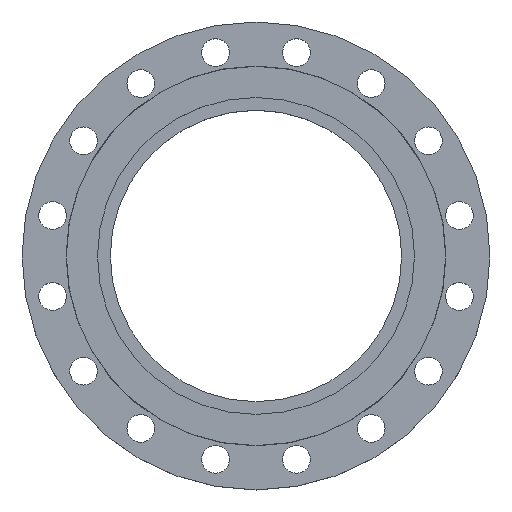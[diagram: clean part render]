
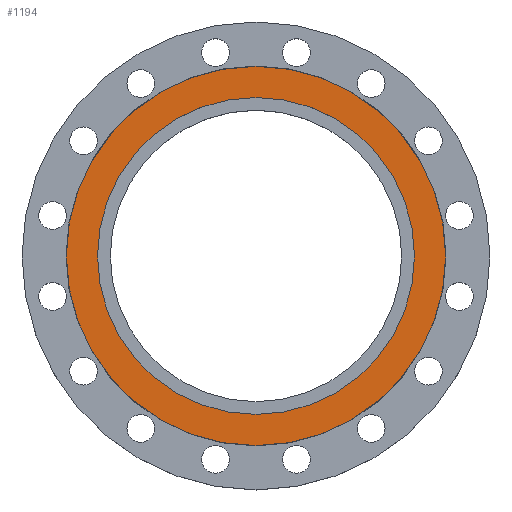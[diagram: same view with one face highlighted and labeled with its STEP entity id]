
A CAD part, top view. The second image highlights one B-rep face of the part: STEP entity #1194.
In plain terms, the highlighted planar face has unit normal (0, 0, 1).
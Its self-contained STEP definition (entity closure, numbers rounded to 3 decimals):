
#17 = DIRECTION ( 'NONE',  ( -1., 0., 0. ) ) ;
#20 = DIRECTION ( 'NONE',  ( 0., 0., -1. ) ) ;
#22 = CARTESIAN_POINT ( 'NONE',  ( 0., 0., 0. ) ) ;
#44 = CARTESIAN_POINT ( 'NONE',  ( 223.5, 0., 0. ) ) ;
#105 = EDGE_CURVE ( 'NONE', #524, #585, #973, .T. ) ;
#252 = DIRECTION ( 'NONE',  ( -1., 0., 0. ) ) ;
#253 = DIRECTION ( 'NONE',  ( 0., 0., -1. ) ) ;
#254 = CARTESIAN_POINT ( 'NONE',  ( 0., 0., 0. ) ) ;
#308 = EDGE_LOOP ( 'NONE', ( #867, #869 ) ) ;
#331 = DIRECTION ( 'NONE',  ( -1., 0., 0. ) ) ;
#357 = EDGE_LOOP ( 'NONE', ( #761, #775 ) ) ;
#524 = VERTEX_POINT ( 'NONE', #44 ) ;
#551 = EDGE_CURVE ( 'NONE', #1124, #1151, #1141, .T. ) ;
#585 = VERTEX_POINT ( 'NONE', #1515 ) ;
#627 = DIRECTION ( 'NONE',  ( 0., 0., -1. ) ) ;
#628 = CARTESIAN_POINT ( 'NONE',  ( 0., 0., 0. ) ) ;
#699 = CIRCLE ( 'NONE', #766, 223.5 ) ;
#761 = ORIENTED_EDGE ( 'NONE', *, *, #551, .F. ) ;
#765 = CARTESIAN_POINT ( 'NONE',  ( 267.5, 0., 0. ) ) ;
#766 = AXIS2_PLACEMENT_3D ( 'NONE', #1036, #1415, #331 ) ;
#770 = AXIS2_PLACEMENT_3D ( 'NONE', #628, #1133, #1494 ) ;
#775 = ORIENTED_EDGE ( 'NONE', *, *, #1441, .F. ) ;
#782 = FACE_OUTER_BOUND ( 'NONE', #357, .T. ) ;
#867 = ORIENTED_EDGE ( 'NONE', *, *, #923, .T. ) ;
#869 = ORIENTED_EDGE ( 'NONE', *, *, #105, .T. ) ;
#922 = AXIS2_PLACEMENT_3D ( 'NONE', #254, #253, #252 ) ;
#923 = EDGE_CURVE ( 'NONE', #585, #524, #699, .T. ) ;
#973 = CIRCLE ( 'NONE', #922, 223.5 ) ;
#1036 = CARTESIAN_POINT ( 'NONE',  ( 0., 0., 0. ) ) ;
#1103 = CARTESIAN_POINT ( 'NONE',  ( -267.5, 0., 0. ) ) ;
#1124 = VERTEX_POINT ( 'NONE', #1103 ) ;
#1129 = DIRECTION ( 'NONE',  ( -1., 0., 0. ) ) ;
#1130 = AXIS2_PLACEMENT_3D ( 'NONE', #22, #20, #17 ) ;
#1133 = DIRECTION ( 'NONE',  ( 0., 0., 1. ) ) ;
#1141 = CIRCLE ( 'NONE', #1130, 267.5 ) ;
#1151 = VERTEX_POINT ( 'NONE', #765 ) ;
#1194 = ADVANCED_FACE ( 'NONE', ( #782, #1269 ), #1540, .T. ) ;
#1269 = FACE_BOUND ( 'NONE', #308, .T. ) ;
#1293 = AXIS2_PLACEMENT_3D ( 'NONE', #1539, #627, #1129 ) ;
#1295 = CIRCLE ( 'NONE', #1293, 267.5 ) ;
#1415 = DIRECTION ( 'NONE',  ( 0., 0., -1. ) ) ;
#1441 = EDGE_CURVE ( 'NONE', #1151, #1124, #1295, .T. ) ;
#1494 = DIRECTION ( 'NONE',  ( 1., 0., 0. ) ) ;
#1515 = CARTESIAN_POINT ( 'NONE',  ( -223.5, 0., 0. ) ) ;
#1539 = CARTESIAN_POINT ( 'NONE',  ( 0., 0., 0. ) ) ;
#1540 = PLANE ( 'NONE',  #770 ) ;
